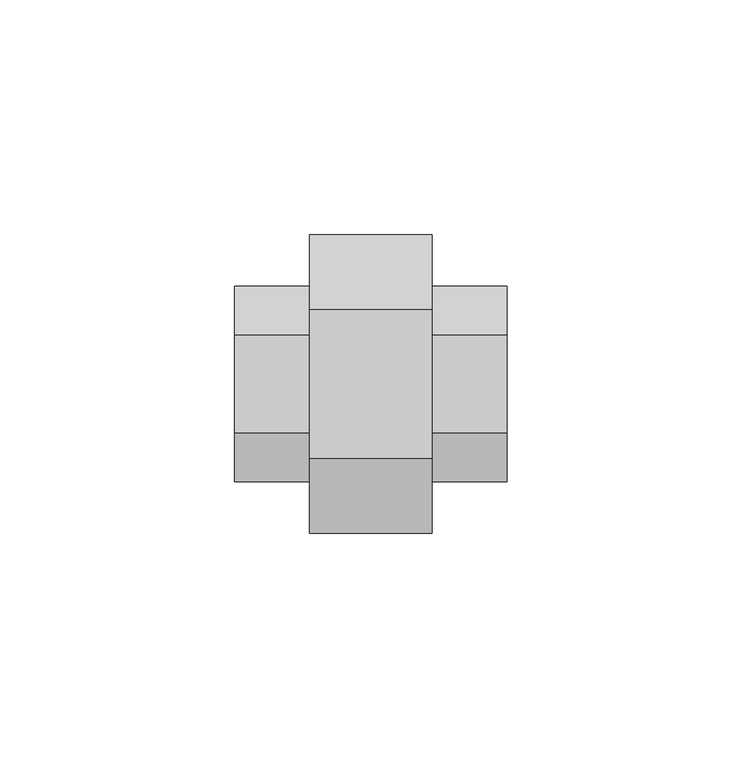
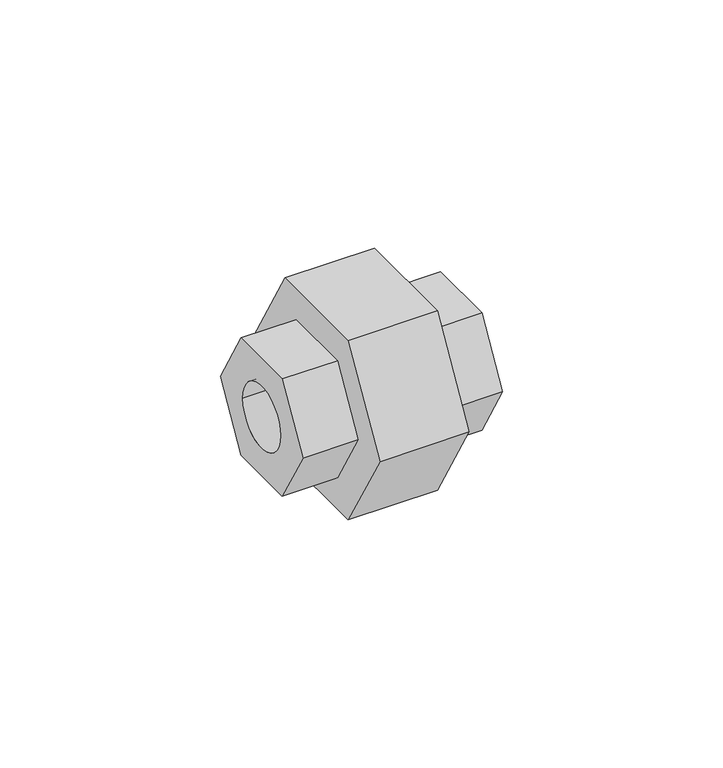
"""IFC4 building model written with IfcOpenShell, lengths in millimetres: pipe fitting geometry, 01011014 : Enlace 3 piezas."""

from ifc_helpers import new_model, si_unit, frame, origin, place, context, project, spatial, polyline, circle_curve, source, transform, mapped, element, save
from ifc_brep_helpers import plane_surface, revolved_surface, advanced_brep


def pipe_fitting_7359e24b(model_context):
    return source(origin(), model_context, "Body", "AdvancedBrep", [
        advanced_brep(
        [(16.0, -15.8771324, 27.5), (16.0, -31.7542648, 0.0), (16.0, -15.8771324, -27.5), (16.0, 15.8771324, -27.5), (16.0, 31.7542648, 0.0), (16.0, 15.8771324, 27.5), (16.0, -10.3923048, 18.0), (16.0, 10.3923048, 18.0), (16.0, 20.7846097, 0.0), (16.0, 10.3923048, -18.0), (16.0, -10.3923048, -18.0), (16.0, -20.7846097, 0.0), (-10.0, -15.8771324, 27.5), (-10.0, 15.8771324, 27.5), (-10.0, 31.7542648, 0.0), (-10.0, 15.8771324, -27.5), (-10.0, -15.8771324, -27.5), (-10.0, -31.7542648, 0.0), (-10.0, 10.3923048, 18.0), (-10.0, -10.3923048, 18.0), (-10.0, -20.7846097, 0.0), (-10.0, -10.3923048, -18.0), (-10.0, 10.3923048, -18.0), (-10.0, 20.7846097, 0.0), (-26.0, -10.3923048, 18.0), (-26.0, 10.3923048, 18.0), (-26.0, 20.7846097, 0.0), (-26.0, 10.3923048, -18.0), (-26.0, -10.3923048, -18.0), (-26.0, -20.7846097, 0.0), (-26.0, -9.525, 0.0), (-26.0, 9.525, 0.0), (32.0, -10.3923048, 18.0), (32.0, -20.7846097, 0.0), (32.0, -10.3923048, -18.0), (32.0, 10.3923048, -18.0), (32.0, 20.7846097, 0.0), (32.0, 10.3923048, 18.0), (32.0, 9.525, 0.0), (32.0, -9.525, 0.0)],
        [
            (0, 1),
            (1, 2),
            (2, 3),
            (3, 4),
            (4, 5),
            (5, 0),
            (6, 7),
            (7, 8),
            (8, 9),
            (9, 10),
            (10, 11),
            (11, 6),
            (12, 13),
            (13, 14),
            (14, 15),
            (15, 16),
            (16, 17),
            (17, 12),
            (18, 19),
            (19, 20),
            (20, 21),
            (21, 22),
            (22, 23),
            (23, 18),
            (0, 12),
            (17, 1),
            (16, 2),
            (15, 3),
            (14, 4),
            (13, 5),
            (24, 25),
            (25, 26),
            (26, 27),
            (27, 28),
            (28, 29),
            (29, 24),
            (30, 31, circle_curve(frame((-26.0, 0.0, 0.0), z_axis=(1.0, 0.0, 0.0), x_axis=(0.0, 1.0, 0.0)), 9.525)),
            (31, 30, circle_curve(frame((-26.0, 0.0, 0.0), z_axis=(1.0, 0.0, 0.0), x_axis=(0.0, 1.0, 0.0)), 9.525)),
            (32, 33),
            (33, 34),
            (34, 35),
            (35, 36),
            (36, 37),
            (37, 32),
            (38, 39, circle_curve(frame((32.0, 0.0, 0.0), z_axis=(-1.0, 0.0, 0.0), x_axis=(0.0, 1.0, 0.0)), 9.525)),
            (39, 38, circle_curve(frame((32.0, 0.0, 0.0), z_axis=(-1.0, 0.0, 0.0), x_axis=(0.0, 1.0, 0.0)), 9.525)),
            (24, 19),
            (18, 25),
            (37, 7),
            (6, 32),
            (23, 26),
            (36, 8),
            (22, 27),
            (35, 9),
            (21, 28),
            (34, 10),
            (20, 29),
            (33, 11),
            (38, 31),
            (30, 39),
        ],
        [
            plane_surface(frame((16.0, -15.8771324, 27.5), z_axis=(1.0000000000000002, 0.0, 0.0), x_axis=(0.0, -0.5000000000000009, -0.8660254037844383))),
            plane_surface(frame((-10.0, -15.8771324, 27.5), z_axis=(-1.0000000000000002, 0.0, 0.0), x_axis=(0.0, 0.5000000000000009, 0.8660254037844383))),
            plane_surface(frame((16.0, -15.8771324, 27.5), z_axis=(0.0, -0.8660254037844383, 0.5000000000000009), x_axis=(-1.0, 0.0, 0.0))),
            plane_surface(frame((16.0, -31.7542648, 0.0), z_axis=(0.0, -0.8660254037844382, -0.500000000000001), x_axis=(-1.0, 0.0, 0.0))),
            plane_surface(frame((16.0, -15.8771324, -27.5), z_axis=(0.0, 0.0, -1.0), x_axis=(-1.0, 0.0, 0.0))),
            plane_surface(frame((16.0, 15.8771324, -27.5), z_axis=(0.0, 0.8660254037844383, -0.5000000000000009), x_axis=(-1.0, 0.0, 0.0))),
            plane_surface(frame((16.0, 31.7542648, 0.0), z_axis=(0.0, 0.8660254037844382, 0.5000000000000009), x_axis=(-1.0, 0.0, 0.0))),
            plane_surface(frame((16.0, 15.8771324, 27.5), z_axis=(0.0, 0.0, 1.0), x_axis=(-1.0, 0.0, 0.0))),
            plane_surface(frame((-26.0, 0.0, 0.0), z_axis=(-1.0, 0.0, 0.0), x_axis=(0.0, 0.0, 1.0))),
            plane_surface(frame((32.0, 0.0, 0.0), z_axis=(1.0, 0.0, 0.0), x_axis=(0.0, 0.0, 1.0))),
            plane_surface(frame((-26.0, -10.3923048, 18.0), z_axis=(0.0, 0.0, 1.0), x_axis=(1.0, 0.0, 0.0))),
            plane_surface(frame((-26.0, 10.3923048, 18.0), z_axis=(0.0, 0.866025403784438, 0.5000000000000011), x_axis=(1.0, 0.0, 0.0))),
            plane_surface(frame((-26.0, 20.7846097, 0.0), z_axis=(0.0, 0.8660254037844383, -0.5000000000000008), x_axis=(1.0, 0.0, 0.0))),
            plane_surface(frame((-26.0, 10.3923048, -18.0), z_axis=(0.0, 0.0, -1.0), x_axis=(1.0, 0.0, 0.0))),
            plane_surface(frame((-26.0, -10.3923048, -18.0), z_axis=(0.0, -0.866025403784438, -0.5000000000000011), x_axis=(1.0, 0.0, 0.0))),
            plane_surface(frame((-26.0, -20.7846097, 0.0), z_axis=(0.0, -0.8660254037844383, 0.5000000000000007), x_axis=(1.0, 0.0, 0.0))),
            revolved_surface(polyline([(32.0, 9.525, 0.0), (-26.0, 9.525, 0.0)]), (-26.0, 0.0, 0.0), (1.0, 0.0, 0.0)),
        ],
        [
            (0, [[1, 2, 3, 4, 5, 6], [7, 8, 9, 10, 11, 12]]),
            (1, [[13, 14, 15, 16, 17, 18], [19, 20, 21, 22, 23, 24]]),
            (2, [[-1, 25, -18, 26]]),
            (3, [[-2, -26, -17, 27]]),
            (4, [[-3, -27, -16, 28]]),
            (5, [[-4, -28, -15, 29]]),
            (6, [[-5, -29, -14, 30]]),
            (7, [[-6, -30, -13, -25]]),
            (8, [[31, 32, 33, 34, 35, 36], [37, 38]]),
            (9, [[39, 40, 41, 42, 43, 44], [45, 46]]),
            (10, [[-31, 47, -19, 48]]),
            (10, [[-44, 49, -7, 50]]),
            (11, [[-32, -48, -24, 51]]),
            (11, [[-43, 52, -8, -49]]),
            (12, [[-33, -51, -23, 53]]),
            (12, [[-42, 54, -9, -52]]),
            (13, [[-34, -53, -22, 55]]),
            (13, [[-41, 56, -10, -54]]),
            (14, [[-35, -55, -21, 57]]),
            (14, [[-40, 58, -11, -56]]),
            (15, [[-36, -57, -20, -47]]),
            (15, [[-39, -50, -12, -58]]),
            (16, [[59, -37, 60, -45]]),
            (16, [[-59, -46, -60, -38]]),
        ],
    ),
    ])


if __name__ == "__main__":
    model = new_model("IFC4")
    model_context = context("Model", 3, world=origin())
    ifc_project = project(units=[si_unit("LENGTHUNIT", "METRE", prefix="MILLI")], contexts=[model_context])
    site = spatial("IfcSite", under=ifc_project)
    building = spatial("IfcBuilding", under=site)
    placement = place(None, origin())
    pipe_fitting_shape = pipe_fitting_7359e24b(model_context)
    element("IfcPipeFitting", 1, ObjectType="01011014 : Enlace 3 piezas", at=placement, inside=building, context=model_context, shape_type="MappedRepresentation", body=[
        mapped(pipe_fitting_shape, transform((0.0, 0.0, 0.0), x_axis=(1.0, 0.0, 0.0), y_axis=(0.0, 1.0, 0.0), z_axis=(0.0, 0.0, 1.0))),
    ])
    save(model, "model.ifc")
